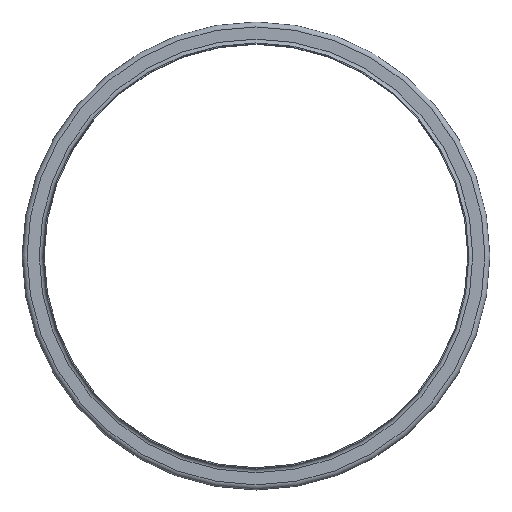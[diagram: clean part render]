
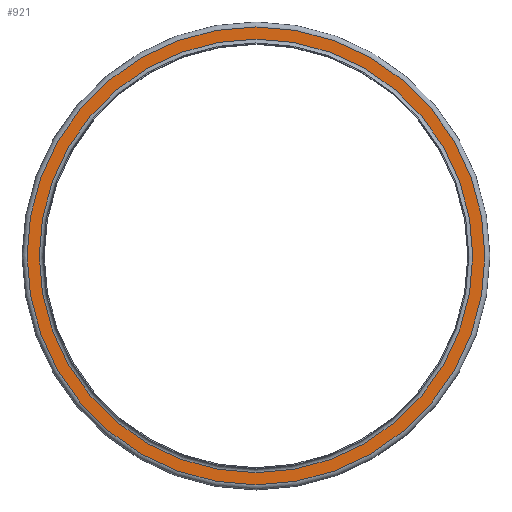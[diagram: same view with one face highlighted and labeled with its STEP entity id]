
A CAD part, top view. The second image highlights one B-rep face of the part: STEP entity #921.
In plain terms, the highlighted planar face has unit normal (0, 0, 1).
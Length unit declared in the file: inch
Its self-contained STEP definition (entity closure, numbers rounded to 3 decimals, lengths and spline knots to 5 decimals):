
#98=FACE_BOUND('',#272,.T.);
#165=FACE_OUTER_BOUND('',#271,.T.);
#271=EDGE_LOOP('',(#772));
#272=EDGE_LOOP('',(#773));
#385=CIRCLE('',#1110,12.28);
#386=CIRCLE('',#1112,12.97);
#466=VERTEX_POINT('',#1734);
#467=VERTEX_POINT('',#1738);
#571=EDGE_CURVE('',#466,#466,#385,.T.);
#572=EDGE_CURVE('',#467,#467,#386,.T.);
#772=ORIENTED_EDGE('',*,*,#572,.F.);
#773=ORIENTED_EDGE('',*,*,#571,.T.);
#854=PLANE('',#1111);
#921=ADVANCED_FACE('',(#165,#98),#854,.T.);
#1110=AXIS2_PLACEMENT_3D('',#1736,#1446,#1447);
#1111=AXIS2_PLACEMENT_3D('',#1737,#1448,#1449);
#1112=AXIS2_PLACEMENT_3D('',#1739,#1450,#1451);
#1446=DIRECTION('center_axis',(0.,0.,-1.));
#1447=DIRECTION('ref_axis',(1.,0.,0.));
#1448=DIRECTION('center_axis',(0.,0.,1.));
#1449=DIRECTION('ref_axis',(1.,0.,0.));
#1450=DIRECTION('center_axis',(0.,0.,-1.));
#1451=DIRECTION('ref_axis',(1.,0.,0.));
#1734=CARTESIAN_POINT('',(12.28,0.,-0.22));
#1736=CARTESIAN_POINT('Origin',(0.,0.,-0.22));
#1737=CARTESIAN_POINT('Origin',(0.,12.97,-0.22));
#1738=CARTESIAN_POINT('',(12.97,0.,-0.22));
#1739=CARTESIAN_POINT('Origin',(0.,0.,-0.22));
